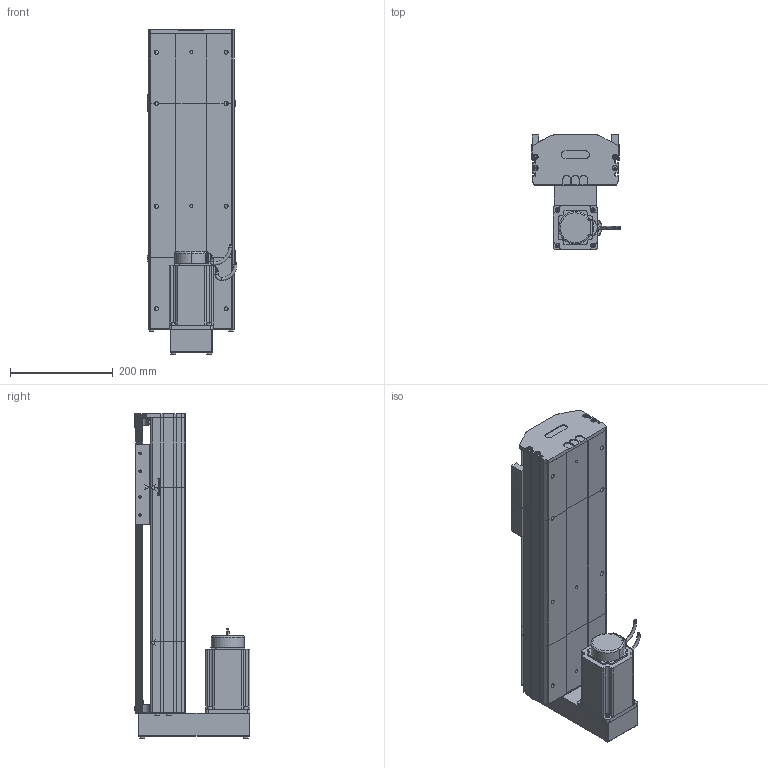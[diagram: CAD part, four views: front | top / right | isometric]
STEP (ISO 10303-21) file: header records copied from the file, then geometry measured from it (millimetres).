
FILE_DESCRIPTION (( 'STEP AP214' ), '1' );
FILE_NAME ('D17 TSH BM S300.STEP', '2010-06-29T14:42:08', ( 'Christophe Gaillard' ), ( 'SGA' ), 'SwSTEP 2.0', 'SolidWorks 2010', '' );
FILE_SCHEMA (( 'AUTOMOTIVE_DESIGN' ));
Length unit declared in the file: millimetre
Products named in the file (33): corpl tail D17+L100_Default; head BM_Default; tete d''axe bas D17; couvercle D17_Default; Arbre+rail tail D17; corpl head D17 BM_Default; tete d''axe haut D17; vis M5 L8 90°_Default; plaque de  bout tail D17_Default; vis M5 L25_Default; Arbre+rail head D17; plaque de  bout BM head D17_Default; couvercle D17 head_Default; Conecteur_Default; Cvis M5 L70_Default; Vis M5 L16-2_Default; Conecteur2_Default; vis M5 L5_Default; avant 90BLDC125A-640; chariot D17S_Default; renvoi Bm_Default; codeur 90BLDC125-640; corps 90BLDC125A-640; Chariot D17; Moteur motionking 90BLDC125A-640; vis M5 L12_Default; guide D17; Tail D17+L100_Default; couvercle D17 course L300_Default; arbre + rail D17 Course 300 ; course 300 D17_Default; D17 TSH BM S300; corp D17 300_Default
Assembly tree (55 placements, depth 4):
  D17 TSH BM S300
    course 300 D17_Default
      couvercle D17 course L300_Default
      corp D17 300_Default
      arbre + rail D17 Course 300 
    chariot D17S_Default
      vis M5 L12_Default  x4
      Chariot D17
      guide D17  x2
    Tail D17+L100_Default
      vis M5 L25_Default  x2
      corpl tail D17+L100_Default
      couvercle D17_Default
      vis M5 L8 90°_Default  x2
      Arbre+rail tail D17
      tete d''axe haut D17
      vis M5 L12_Default  x4
      tete d''axe bas D17
      plaque de  bout tail D17_Default
    head BM_Default
      couvercle D17 head_Default
      corpl head D17 BM_Default
      vis M5 L12_Default  x8
      Vis M5 L16-2_Default  x4
      Moteur motionking 90BLDC125A-640
        Conecteur2_Default
        avant 90BLDC125A-640
        Conecteur_Default
        codeur 90BLDC125-640
        corps 90BLDC125A-640
      Cvis M5 L70_Default  x2
      vis M5 L5_Default  x2
      renvoi Bm_Default
      plaque de  bout BM head D17_Default
      Arbre+rail head D17
Bounding box: 174.95 x 225.7 x 632.7 mm (x, y, z)
Volume: 5146344.9 mm3; surface area: 1243836 mm2
Topology: 80 solids, 80 shells, 2227 faces, 5567 edges, 3592 vertices
Faces by surface type: plane 1400, cylinder 550, bspline 136, torus 73, cone 64, sphere 4
Entity records: 71717 total; most frequent: CARTESIAN_POINT 22462, ORIENTED_EDGE 8642, DIRECTION 8098, EDGE_CURVE 4321, VECTOR 3030, LINE 3030, VERTEX_POINT 2838, AXIS2_PLACEMENT_3D 2534
